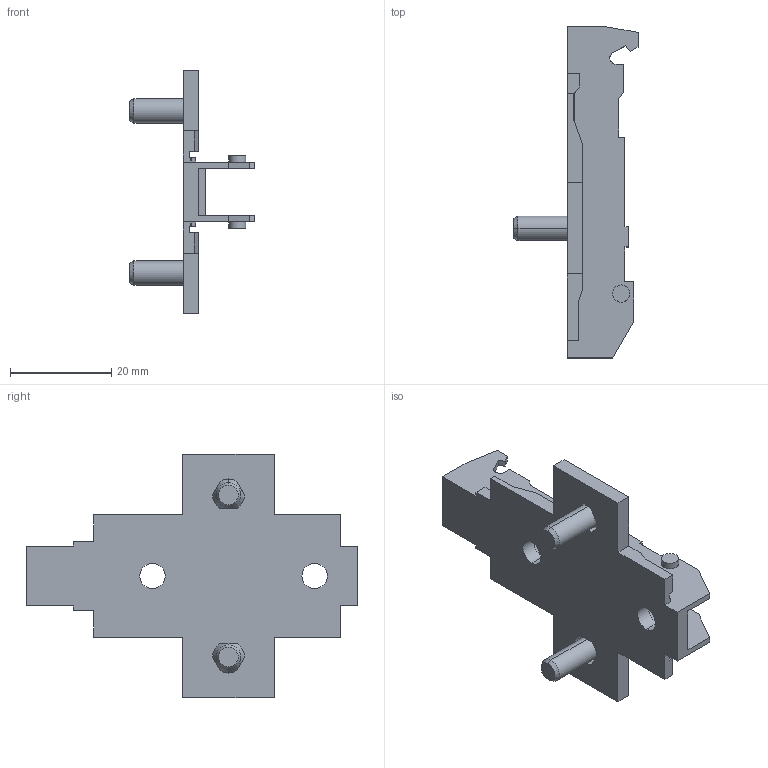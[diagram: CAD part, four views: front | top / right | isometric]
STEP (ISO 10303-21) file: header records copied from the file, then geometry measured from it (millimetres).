
FILE_DESCRIPTION (( 'STEP AP214' ), '1' );
FILE_NAME ('1D_Kreuzmontageplatte 37_32_Euro_vorgestellt 13,5_3,5.step', '2010-11-18T10:19:40', ( 'grass' ), ( '' ), 'SwSTEP 2.0', 'SolidWorks 2010', '' );
FILE_SCHEMA (( 'AUTOMOTIVE_DESIGN' ));
Length unit declared in the file: millimetre
Products named in the file (1): 1D_Kreuzmontageplatte 37_32_Euro_vorgestellt 13,5_3,5
Bounding box: 24.5 x 65.5 x 48 mm (x, y, z)
Volume: 6706.1 mm3; surface area: 7363.3 mm2
Topology: 1 solids, 1 shells, 142 faces, 406 edges, 264 vertices
Faces by surface type: plane 96, cylinder 34, cone 12
Entity records: 4708 total; most frequent: CARTESIAN_POINT 905, ORIENTED_EDGE 812, DIRECTION 752, EDGE_CURVE 406, LINE 306, VECTOR 306, VERTEX_POINT 264, AXIS2_PLACEMENT_3D 223
